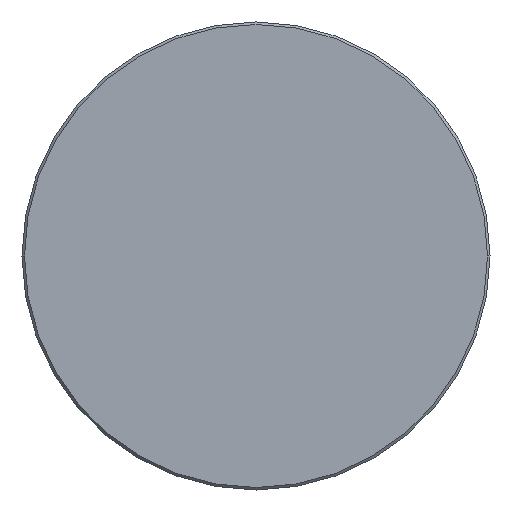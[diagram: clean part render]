
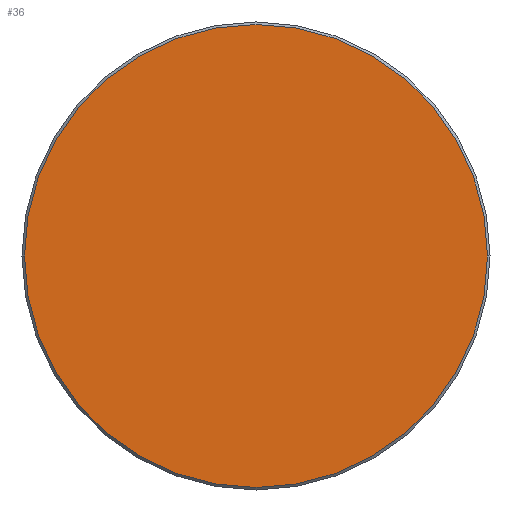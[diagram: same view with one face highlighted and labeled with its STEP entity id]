
A CAD part, left-side view. The second image highlights one B-rep face of the part: STEP entity #36.
In plain terms, the highlighted planar face has unit normal (-1, 0, 0).
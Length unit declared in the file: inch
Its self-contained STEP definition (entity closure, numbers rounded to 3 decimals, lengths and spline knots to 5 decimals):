
#2 = AXIS2_PLACEMENT_3D ( 'NONE', #159, #240, #333 ) ;
#24 = AXIS2_PLACEMENT_3D ( 'NONE', #170, #306, #76 ) ;
#35 = FACE_OUTER_BOUND ( 'NONE', #231, .T. ) ;
#36 = ADVANCED_FACE ( 'NONE', ( #35 ), #238, .T. ) ;
#49 = DIRECTION ( 'NONE',  ( 0., -1., 0. ) ) ;
#51 = DIRECTION ( 'NONE',  ( -1., 0., 0. ) ) ;
#76 = DIRECTION ( 'NONE',  ( 0., -1., 0. ) ) ;
#89 = EDGE_CURVE ( 'NONE', #335, #106, #255, .T. ) ;
#106 = VERTEX_POINT ( 'NONE', #115 ) ;
#115 = CARTESIAN_POINT ( 'NONE',  ( 0., 0.371, 0. ) ) ;
#144 = CARTESIAN_POINT ( 'NONE',  ( 0., 0., 0. ) ) ;
#159 = CARTESIAN_POINT ( 'NONE',  ( 0., 0., 0. ) ) ;
#170 = CARTESIAN_POINT ( 'NONE',  ( 0., 0., 0. ) ) ;
#178 = ORIENTED_EDGE ( 'NONE', *, *, #315, .T. ) ;
#198 = AXIS2_PLACEMENT_3D ( 'NONE', #144, #51, #49 ) ;
#201 = CIRCLE ( 'NONE', #24, 0.371 ) ;
#231 = EDGE_LOOP ( 'NONE', ( #178, #327 ) ) ;
#238 = PLANE ( 'NONE',  #2 ) ;
#240 = DIRECTION ( 'NONE',  ( -1., 0., 0. ) ) ;
#255 = CIRCLE ( 'NONE', #198, 0.371 ) ;
#306 = DIRECTION ( 'NONE',  ( -1., 0., 0. ) ) ;
#315 = EDGE_CURVE ( 'NONE', #106, #335, #201, .T. ) ;
#327 = ORIENTED_EDGE ( 'NONE', *, *, #89, .T. ) ;
#332 = CARTESIAN_POINT ( 'NONE',  ( 0., -0.371, 0. ) ) ;
#333 = DIRECTION ( 'NONE',  ( 0., -1., 0. ) ) ;
#335 = VERTEX_POINT ( 'NONE', #332 ) ;
